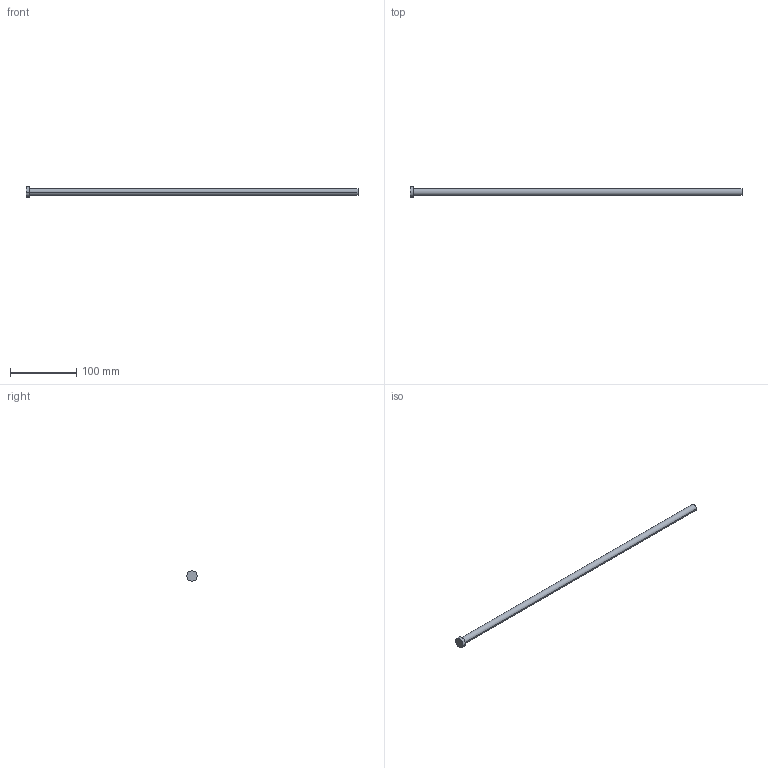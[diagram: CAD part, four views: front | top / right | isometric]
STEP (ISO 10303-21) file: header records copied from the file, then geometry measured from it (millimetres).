
FILE_DESCRIPTION (( 'STEP AP214' ), '1' );
FILE_NAME ('A-10,5x500.STEP', '2020-06-03T09:40:34', ( 'August' ), ( '' ), 'SwSTEP 2.0', 'SolidWorks 2018', '' );
FILE_SCHEMA (( 'AUTOMOTIVE_DESIGN' ));
Length unit declared in the file: millimetre
Products named in the file (1): A-10,5x500
Bounding box: 500 x 16 x 16 mm (x, y, z)
Volume: 43869.2 mm3; surface area: 16974.9 mm2
Topology: 1 solids, 1 shells, 9 faces, 16 edges, 10 vertices
Faces by surface type: cylinder 4, plane 3, torus 2
Entity records: 260 total; most frequent: DIRECTION 48, CARTESIAN_POINT 36, ORIENTED_EDGE 32, AXIS2_PLACEMENT_3D 22, EDGE_CURVE 16, CIRCLE 12, VERTEX_POINT 10, EDGE_LOOP 10
